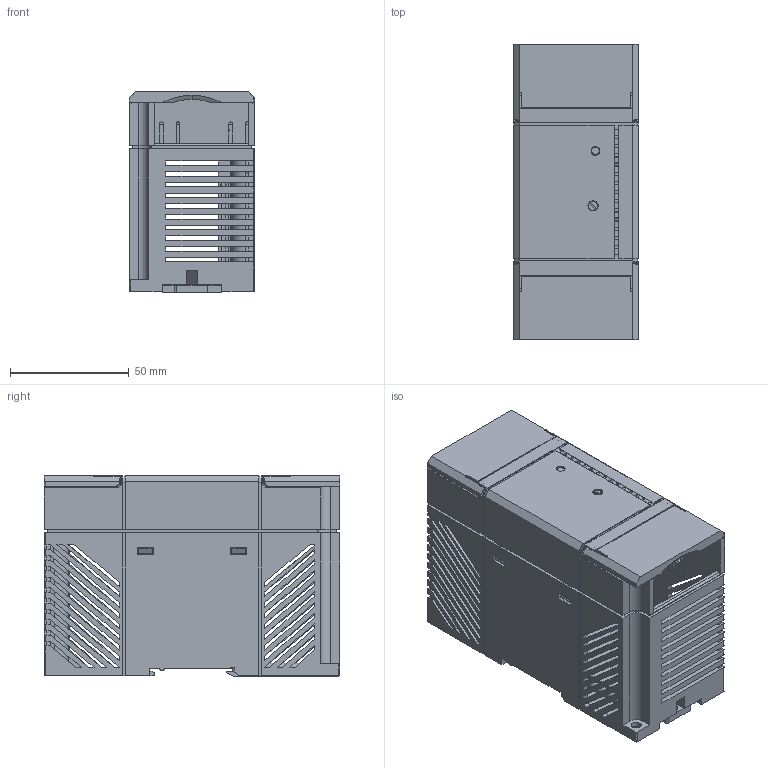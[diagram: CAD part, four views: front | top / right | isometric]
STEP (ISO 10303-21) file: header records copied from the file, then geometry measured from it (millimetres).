
FILE_DESCRIPTION (( 'STEP AP214' ), '1' );
FILE_NAME ('ÈÁÏ60Ê — îáëåã÷.STEP', '2022-03-03T13:03:26', ( '' ), ( '' ), 'SwSTEP 2.0', 'SolidWorks 2019', '' );
FILE_SCHEMA (( 'AUTOMOTIVE_DESIGN' ));
Length unit declared in the file: millimetre
Products named in the file (13): (1491)ÊÓÂÔ.731394.420.1491(Çàùåëêà ÌÕ110); (2501)ÊÓÂÔ.731123.420.2501(Êðûøêà ÈÁÏ60Ê); (2512)ﾊﾓﾂﾔ.755755.420.2512(ﾈﾁﾏ60ﾊ.ﾑ粢粽臉2 ﾏﾋﾊ210); IPD47C04; (1653)ÊÓÂÔ.301152.410.1653(Íèæíÿÿ ÷àñòü  êîðïóñà Ä3-210); (1558)ÊÓÂÔ.755755.420.1558(Ñâåòîâîä ìàëûé ÏËÊ210); (117)ÊÓÂÔ.421417.311.117(Ïëàòû â ñáîðå ÈÁÏ60Ê); (3218)ÊÓÂÔ.301152.320.3218(Êîðïóñ ÈÁÏ60Ê); (2295)ﾊﾓﾂﾔ.731142.420.2295(ﾎ魵瑙韃 ﾄ3-210); ÈÁÏ60Ê — îáëåã÷; (2158)ÊÓÂÔ.301152.410.2158(Êðûøêà ÈÁÏ60Ê â ñáîðå); (2297)ÊÓÂÔ.731142.420.2297(Êðûøêà áîêîâàÿ Ä3-210)
Assembly tree (16 placements, depth 5):
  ÈÁÏ60Ê — îáëåã÷
    (3218)ÊÓÂÔ.301152.320.3218(Êîðïóñ ÈÁÏ60Ê)
      (1653)ÊÓÂÔ.301152.410.1653(Íèæíÿÿ ÷àñòü  êîðïóñà Ä3-210)
        (2295)ﾊﾓﾂﾔ.731142.420.2295(ﾎ魵瑙韃 ﾄ3-210)
        (1491)ÊÓÂÔ.731394.420.1491(Çàùåëêà ÌÕ110)
      (2158)ÊÓÂÔ.301152.410.2158(Êðûøêà ÈÁÏ60Ê â ñáîðå)
        (1558)ÊÓÂÔ.755755.420.1558(Ñâåòîâîä ìàëûé ÏËÊ210)  x4
        (2512)ﾊﾓﾂﾔ.755755.420.2512(ﾈﾁﾏ60ﾊ.ﾑ粢粽臉2 ﾏﾋﾊ210)
          (1558)ÊÓÂÔ.755755.420.1558(Ñâåòîâîä ìàëûé ÏËÊ210)
    (117)ÊÓÂÔ.421417.311.117(Ïëàòû â ñáîðå ÈÁÏ60Ê)
      IPD47C04
    (2297)ÊÓÂÔ.731142.420.2297(Êðûøêà áîêîâàÿ Ä3-210)  x2
    (2501)ÊÓÂÔ.731123.420.2501(Êðûøêà ÈÁÏ60Ê)
Bounding box: 52.58 x 124.28 x 84.3 mm (x, y, z)
Volume: 85886.1 mm3; surface area: 102394.5 mm2
Topology: 12 solids, 12 shells, 1863 faces, 5535 edges, 3610 vertices
Faces by surface type: plane 1583, cylinder 254, bspline 10, sphere 8, cone 8
Entity records: 67203 total; most frequent: CARTESIAN_POINT 10287, ORIENTED_EDGE 9900, DIRECTION 8661, EDGE_CURVE 4950, LINE 4419, VECTOR 4419, VERTEX_POINT 3225, AXIS2_PLACEMENT_3D 2121
